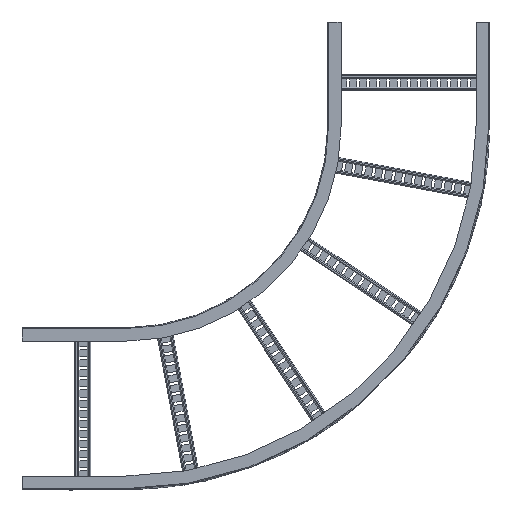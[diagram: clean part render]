
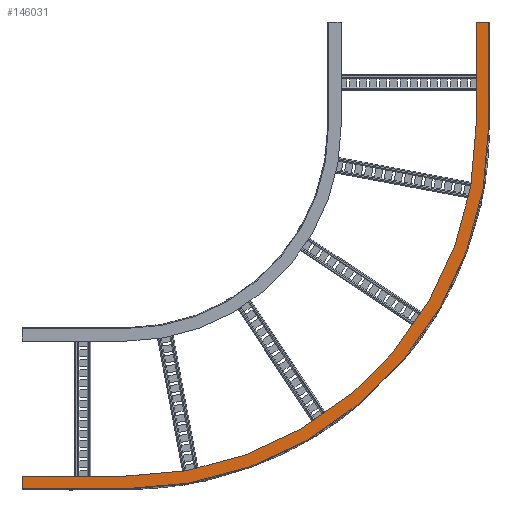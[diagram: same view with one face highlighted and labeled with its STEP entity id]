
A CAD part, front view. The second image highlights one B-rep face of the part: STEP entity #146031.
In plain terms, the highlighted planar face has unit normal (0, -1, 0).
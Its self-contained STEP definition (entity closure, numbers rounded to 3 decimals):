
#954 = LINE ( 'NONE', #19941, #35537 ) ;
#3355 = CARTESIAN_POINT ( 'NONE',  ( -892.3, -1.5, -257.2 ) ) ;
#4887 = EDGE_CURVE ( 'NONE', #159708, #119048, #954, .T. ) ;
#7839 = VERTEX_POINT ( 'NONE', #83509 ) ;
#8716 = VERTEX_POINT ( 'NONE', #104666 ) ;
#12907 = DIRECTION ( 'NONE',  ( 0., 0., 1. ) ) ;
#16361 = DIRECTION ( 'NONE',  ( 0., 0., 1. ) ) ;
#19941 = CARTESIAN_POINT ( 'NONE',  ( -1149.5, -1.5, -1155.5 ) ) ;
#20418 = DIRECTION ( 'NONE',  ( 0., 0., 1. ) ) ;
#23710 = LINE ( 'NONE', #72251, #158050 ) ;
#25569 = ORIENTED_EDGE ( 'NONE', *, *, #167511, .F. ) ;
#27589 = ORIENTED_EDGE ( 'NONE', *, *, #40018, .F. ) ;
#28239 = PLANE ( 'NONE',  #149849 ) ;
#35537 = VECTOR ( 'NONE', #73443, 1000. ) ;
#40018 = EDGE_CURVE ( 'NONE', #61601, #119048, #156116, .T. ) ;
#41329 = CARTESIAN_POINT ( 'NONE',  ( 6., -1.5, -257.2 ) ) ;
#46183 = VECTOR ( 'NONE', #80749, 1000. ) ;
#50297 = EDGE_CURVE ( 'NONE', #8716, #151801, #95179, .T. ) ;
#54253 = EDGE_LOOP ( 'NONE', ( #25569, #131960, #137425, #93807, #114943, #27589, #124103, #159999 ) ) ;
#54425 = DIRECTION ( 'NONE',  ( 0., -1., 0. ) ) ;
#57819 = CARTESIAN_POINT ( 'NONE',  ( 6., -1.5, -257.2 ) ) ;
#59104 = CARTESIAN_POINT ( 'NONE',  ( -892.3, -1.5, -1124.2 ) ) ;
#61601 = VERTEX_POINT ( 'NONE', #152675 ) ;
#67629 = CARTESIAN_POINT ( 'NONE',  ( -892.3, -1.5, -1124.2 ) ) ;
#68966 = CARTESIAN_POINT ( 'NONE',  ( -25.3, -1.5, -257.2 ) ) ;
#72251 = CARTESIAN_POINT ( 'NONE',  ( 6., -1.5, -257.2 ) ) ;
#73443 = DIRECTION ( 'NONE',  ( 0., 0., -1. ) ) ;
#76254 = DIRECTION ( 'NONE',  ( -1., 0., 0. ) ) ;
#77518 = LINE ( 'NONE', #68966, #112079 ) ;
#79958 = CARTESIAN_POINT ( 'NONE',  ( 6., -1.5, 0. ) ) ;
#80749 = DIRECTION ( 'NONE',  ( -1., 0., 0. ) ) ;
#81299 = CARTESIAN_POINT ( 'NONE',  ( -25.3, -1.5, 0. ) ) ;
#83509 = CARTESIAN_POINT ( 'NONE',  ( 6., -1.5, 0. ) ) ;
#90938 = DIRECTION ( 'NONE',  ( 0., 1., 0. ) ) ;
#92277 = VERTEX_POINT ( 'NONE', #57819 ) ;
#93019 = DIRECTION ( 'NONE',  ( 1., 0., 0. ) ) ;
#93807 = ORIENTED_EDGE ( 'NONE', *, *, #159835, .T. ) ;
#94363 = DIRECTION ( 'NONE',  ( 0., 1., 0. ) ) ;
#95114 = VECTOR ( 'NONE', #76254, 1000. ) ;
#95179 = CIRCLE ( 'NONE', #163626, 867. ) ;
#97921 = LINE ( 'NONE', #79958, #132581 ) ;
#101386 = EDGE_CURVE ( 'NONE', #92277, #61601, #141559, .T. ) ;
#104666 = CARTESIAN_POINT ( 'NONE',  ( -25.3, -1.5, -257.2 ) ) ;
#112079 = VECTOR ( 'NONE', #146893, 1000. ) ;
#114305 = CARTESIAN_POINT ( 'NONE',  ( -1149.5, -1.5, -1124.2 ) ) ;
#114943 = ORIENTED_EDGE ( 'NONE', *, *, #4887, .T. ) ;
#119048 = VERTEX_POINT ( 'NONE', #162503 ) ;
#124103 = ORIENTED_EDGE ( 'NONE', *, *, #101386, .F. ) ;
#131960 = ORIENTED_EDGE ( 'NONE', *, *, #154436, .F. ) ;
#132581 = VECTOR ( 'NONE', #93019, 1000. ) ;
#132987 = FACE_OUTER_BOUND ( 'NONE', #54253, .T. ) ;
#137425 = ORIENTED_EDGE ( 'NONE', *, *, #50297, .T. ) ;
#141559 = CIRCLE ( 'NONE', #143075, 898.3 ) ;
#143075 = AXIS2_PLACEMENT_3D ( 'NONE', #168709, #90938, #12907 ) ;
#145478 = DIRECTION ( 'NONE',  ( 1., 0., 0. ) ) ;
#146031 = ADVANCED_FACE ( 'NONE', ( #132987 ), #28239, .T. ) ;
#146893 = DIRECTION ( 'NONE',  ( 0., 0., 1. ) ) ;
#149849 = AXIS2_PLACEMENT_3D ( 'NONE', #41329, #54425, #145478 ) ;
#149994 = LINE ( 'NONE', #67629, #46183 ) ;
#151801 = VERTEX_POINT ( 'NONE', #59104 ) ;
#152675 = CARTESIAN_POINT ( 'NONE',  ( -892.3, -1.5, -1155.5 ) ) ;
#153380 = VERTEX_POINT ( 'NONE', #81299 ) ;
#154111 = CARTESIAN_POINT ( 'NONE',  ( -892.3, -1.5, -1155.5 ) ) ;
#154436 = EDGE_CURVE ( 'NONE', #8716, #153380, #77518, .T. ) ;
#156116 = LINE ( 'NONE', #154111, #95114 ) ;
#158050 = VECTOR ( 'NONE', #20418, 1000. ) ;
#159708 = VERTEX_POINT ( 'NONE', #114305 ) ;
#159835 = EDGE_CURVE ( 'NONE', #151801, #159708, #149994, .T. ) ;
#159999 = ORIENTED_EDGE ( 'NONE', *, *, #163242, .T. ) ;
#162503 = CARTESIAN_POINT ( 'NONE',  ( -1149.5, -1.5, -1155.5 ) ) ;
#163242 = EDGE_CURVE ( 'NONE', #92277, #7839, #23710, .T. ) ;
#163626 = AXIS2_PLACEMENT_3D ( 'NONE', #3355, #94363, #16361 ) ;
#167511 = EDGE_CURVE ( 'NONE', #153380, #7839, #97921, .T. ) ;
#168709 = CARTESIAN_POINT ( 'NONE',  ( -892.3, -1.5, -257.2 ) ) ;
